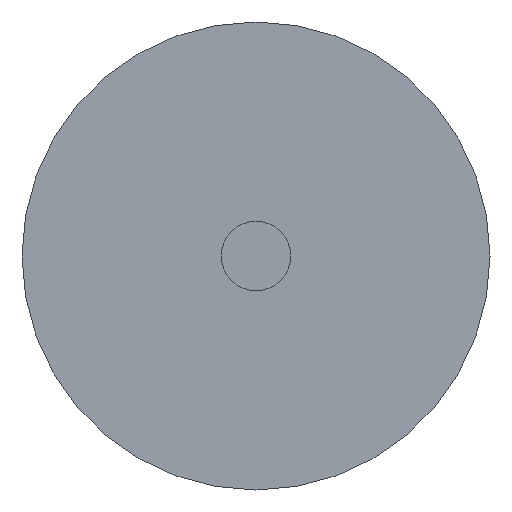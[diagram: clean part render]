
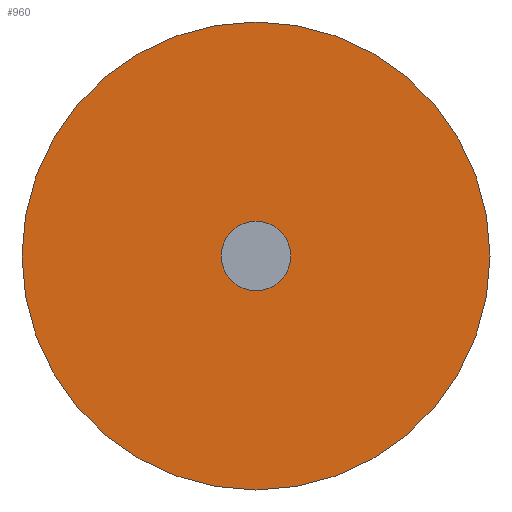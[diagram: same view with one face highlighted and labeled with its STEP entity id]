
A CAD part, left-side view. The second image highlights one B-rep face of the part: STEP entity #960.
In plain terms, the highlighted planar face has unit normal (-1, 0, 0).
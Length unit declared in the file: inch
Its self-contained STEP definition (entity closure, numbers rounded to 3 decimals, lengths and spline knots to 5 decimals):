
#29 = EDGE_CURVE ( 'NONE', #999, #1333, #877, .T. ) ;
#31 = CARTESIAN_POINT ( 'NONE',  ( 0., 0., 0. ) ) ;
#57 = VERTEX_POINT ( 'NONE', #588 ) ;
#101 = AXIS2_PLACEMENT_3D ( 'NONE', #470, #942, #1456 ) ;
#113 = VERTEX_POINT ( 'NONE', #132 ) ;
#115 = EDGE_LOOP ( 'NONE', ( #156, #1146 ) ) ;
#132 = CARTESIAN_POINT ( 'NONE',  ( 0., 0., 0.10803 ) ) ;
#153 = FACE_BOUND ( 'NONE', #685, .T. ) ;
#156 = ORIENTED_EDGE ( 'NONE', *, *, #1045, .T. ) ;
#223 = DIRECTION ( 'NONE',  ( -1., 0., 0. ) ) ;
#243 = DIRECTION ( 'NONE',  ( 0., 0., 1. ) ) ;
#277 = DIRECTION ( 'NONE',  ( -1., 0., 0. ) ) ;
#380 = CIRCLE ( 'NONE', #573, 0.016 ) ;
#470 = CARTESIAN_POINT ( 'NONE',  ( 0., 0., 0. ) ) ;
#506 = DIRECTION ( 'NONE',  ( 1., 0., 0. ) ) ;
#524 = AXIS2_PLACEMENT_3D ( 'NONE', #1301, #223, #695 ) ;
#542 = AXIS2_PLACEMENT_3D ( 'NONE', #31, #506, #988 ) ;
#573 = AXIS2_PLACEMENT_3D ( 'NONE', #1358, #277, #742 ) ;
#588 = CARTESIAN_POINT ( 'NONE',  ( 0., 0., -0.10803 ) ) ;
#629 = FACE_OUTER_BOUND ( 'NONE', #115, .T. ) ;
#685 = EDGE_LOOP ( 'NONE', ( #784, #794 ) ) ;
#693 = CARTESIAN_POINT ( 'NONE',  ( 0., 0., 0.016 ) ) ;
#695 = DIRECTION ( 'NONE',  ( 0., 0., 1. ) ) ;
#742 = DIRECTION ( 'NONE',  ( 0., 0., 1. ) ) ;
#743 = AXIS2_PLACEMENT_3D ( 'NONE', #828, #1322, #243 ) ;
#780 = EDGE_CURVE ( 'NONE', #57, #113, #1458, .T. ) ;
#784 = ORIENTED_EDGE ( 'NONE', *, *, #29, .F. ) ;
#794 = ORIENTED_EDGE ( 'NONE', *, *, #1260, .F. ) ;
#828 = CARTESIAN_POINT ( 'NONE',  ( 0., 0., 0. ) ) ;
#877 = CIRCLE ( 'NONE', #524, 0.016 ) ;
#883 = CARTESIAN_POINT ( 'NONE',  ( 0., 0., -0.016 ) ) ;
#942 = DIRECTION ( 'NONE',  ( -1., 0., 0. ) ) ;
#960 = ADVANCED_FACE ( 'NONE', ( #153, #629 ), #1109, .F. ) ;
#970 = CIRCLE ( 'NONE', #101, 0.10803 ) ;
#988 = DIRECTION ( 'NONE',  ( 0., 0., -1. ) ) ;
#999 = VERTEX_POINT ( 'NONE', #693 ) ;
#1045 = EDGE_CURVE ( 'NONE', #113, #57, #970, .T. ) ;
#1109 = PLANE ( 'NONE',  #542 ) ;
#1146 = ORIENTED_EDGE ( 'NONE', *, *, #780, .T. ) ;
#1260 = EDGE_CURVE ( 'NONE', #1333, #999, #380, .T. ) ;
#1301 = CARTESIAN_POINT ( 'NONE',  ( 0., 0., 0. ) ) ;
#1322 = DIRECTION ( 'NONE',  ( -1., 0., 0. ) ) ;
#1333 = VERTEX_POINT ( 'NONE', #883 ) ;
#1358 = CARTESIAN_POINT ( 'NONE',  ( 0., 0., 0. ) ) ;
#1456 = DIRECTION ( 'NONE',  ( 0., 0., 1. ) ) ;
#1458 = CIRCLE ( 'NONE', #743, 0.10803 ) ;
